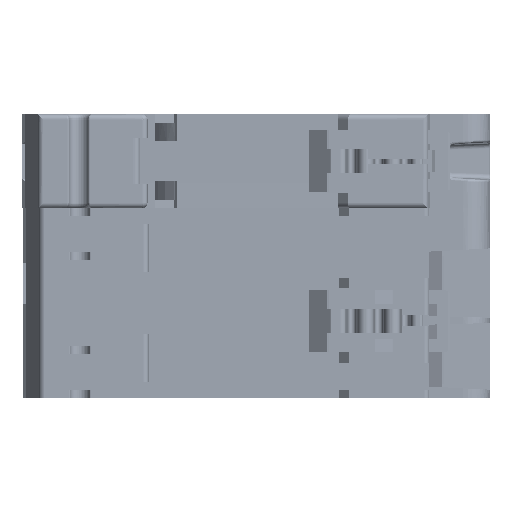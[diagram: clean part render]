
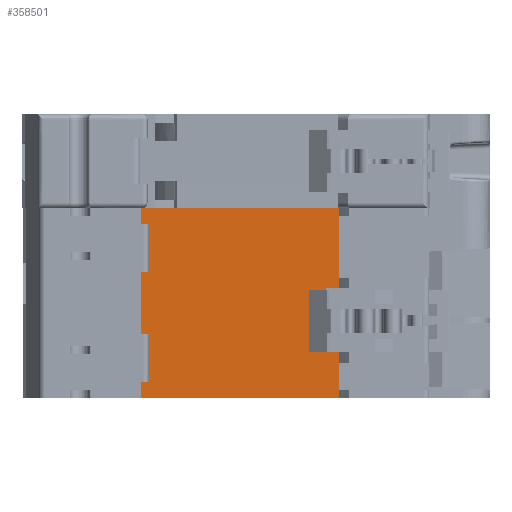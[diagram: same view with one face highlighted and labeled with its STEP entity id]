
A CAD part, front view. The second image highlights one B-rep face of the part: STEP entity #358501.
In plain terms, the highlighted planar face has unit normal (0, -1, 0).
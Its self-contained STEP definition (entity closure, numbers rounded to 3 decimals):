
#3156 = ORIENTED_EDGE ( 'NONE', *, *, #498165, .F. ) ;
#15279 = CARTESIAN_POINT ( 'NONE',  ( 13.746, -23.911, 35.89 ) ) ;
#27197 = VERTEX_POINT ( 'NONE', #525369 ) ;
#33864 = LINE ( 'NONE', #15279, #253383 ) ;
#36318 = CARTESIAN_POINT ( 'NONE',  ( -20.882, -23.911, 71.39 ) ) ;
#50245 = EDGE_CURVE ( 'NONE', #143438, #93414, #187559, .T. ) ;
#55193 = DIRECTION ( 'NONE',  ( 0., 0., -1. ) ) ;
#57541 = EDGE_CURVE ( 'NONE', #504434, #122988, #69571, .T. ) ;
#60267 = ORIENTED_EDGE ( 'NONE', *, *, #50245, .T. ) ;
#61376 = VECTOR ( 'NONE', #178890, 1000. ) ;
#69571 = LINE ( 'NONE', #389538, #385760 ) ;
#90822 = CARTESIAN_POINT ( 'NONE',  ( 16.118, -23.911, 35.89 ) ) ;
#93414 = VERTEX_POINT ( 'NONE', #284369 ) ;
#99557 = DIRECTION ( 'NONE',  ( 0., 0., 1. ) ) ;
#106490 = LINE ( 'NONE', #144571, #325802 ) ;
#106575 = CARTESIAN_POINT ( 'NONE',  ( 16.118, -23.911, 56.39 ) ) ;
#111138 = PLANE ( 'NONE',  #265734 ) ;
#112945 = DIRECTION ( 'NONE',  ( 0., 1., 0. ) ) ;
#122988 = VERTEX_POINT ( 'NONE', #343846 ) ;
#137278 = CARTESIAN_POINT ( 'NONE',  ( 16.118, -23.911, 35.89 ) ) ;
#143438 = VERTEX_POINT ( 'NONE', #90822 ) ;
#144571 = CARTESIAN_POINT ( 'NONE',  ( 16.118, -23.911, 71.39 ) ) ;
#151391 = EDGE_LOOP ( 'NONE', ( #293049, #414551, #422875, #60267, #265553, #3156, #296457, #457056 ) ) ;
#159981 = CARTESIAN_POINT ( 'NONE',  ( 16.118, -23.911, 35.89 ) ) ;
#171203 = LINE ( 'NONE', #137278, #61376 ) ;
#178890 = DIRECTION ( 'NONE',  ( -1., 0., 0. ) ) ;
#187559 = LINE ( 'NONE', #191618, #393955 ) ;
#187872 = DIRECTION ( 'NONE',  ( -1., 0., 0. ) ) ;
#191618 = CARTESIAN_POINT ( 'NONE',  ( 16.118, -23.911, 35.89 ) ) ;
#201528 = DIRECTION ( 'NONE',  ( 0., 0., 1. ) ) ;
#221361 = LINE ( 'NONE', #487895, #524388 ) ;
#222159 = EDGE_CURVE ( 'NONE', #143438, #432058, #171203, .T. ) ;
#228727 = FACE_OUTER_BOUND ( 'NONE', #151391, .T. ) ;
#244625 = EDGE_CURVE ( 'NONE', #495017, #343249, #106490, .T. ) ;
#253383 = VECTOR ( 'NONE', #55193, 1000. ) ;
#265553 = ORIENTED_EDGE ( 'NONE', *, *, #364997, .F. ) ;
#265734 = AXIS2_PLACEMENT_3D ( 'NONE', #359982, #112945, #401332 ) ;
#284369 = CARTESIAN_POINT ( 'NONE',  ( 16.118, -23.911, 44.39 ) ) ;
#290183 = DIRECTION ( 'NONE',  ( 0., 0., 1. ) ) ;
#293049 = ORIENTED_EDGE ( 'NONE', *, *, #244625, .T. ) ;
#296457 = ORIENTED_EDGE ( 'NONE', *, *, #57541, .F. ) ;
#311026 = VECTOR ( 'NONE', #290183, 1000. ) ;
#325802 = VECTOR ( 'NONE', #187872, 1000. ) ;
#331700 = CARTESIAN_POINT ( 'NONE',  ( -20.882, -23.911, 35.89 ) ) ;
#343249 = VERTEX_POINT ( 'NONE', #36318 ) ;
#343846 = CARTESIAN_POINT ( 'NONE',  ( 13.746, -23.911, 56.39 ) ) ;
#346895 = EDGE_CURVE ( 'NONE', #432058, #343249, #420631, .T. ) ;
#358501 = ADVANCED_FACE ( 'NONE', ( #228727 ), #111138, .F. ) ;
#359982 = CARTESIAN_POINT ( 'NONE',  ( 16.118, -23.911, 35.89 ) ) ;
#364997 = EDGE_CURVE ( 'NONE', #27197, #93414, #221361, .T. ) ;
#370160 = CARTESIAN_POINT ( 'NONE',  ( 16.118, -23.911, 71.39 ) ) ;
#371605 = CARTESIAN_POINT ( 'NONE',  ( -20.882, -23.911, 35.89 ) ) ;
#385760 = VECTOR ( 'NONE', #431025, 1000. ) ;
#389538 = CARTESIAN_POINT ( 'NONE',  ( 16.118, -23.911, 56.39 ) ) ;
#390678 = EDGE_CURVE ( 'NONE', #504434, #495017, #511049, .T. ) ;
#393955 = VECTOR ( 'NONE', #99557, 1000. ) ;
#401313 = VECTOR ( 'NONE', #201528, 1000. ) ;
#401332 = DIRECTION ( 'NONE',  ( 1., 0., 0. ) ) ;
#414551 = ORIENTED_EDGE ( 'NONE', *, *, #346895, .F. ) ;
#420631 = LINE ( 'NONE', #331700, #311026 ) ;
#422875 = ORIENTED_EDGE ( 'NONE', *, *, #222159, .F. ) ;
#431025 = DIRECTION ( 'NONE',  ( -1., 0., 0. ) ) ;
#432058 = VERTEX_POINT ( 'NONE', #371605 ) ;
#457056 = ORIENTED_EDGE ( 'NONE', *, *, #390678, .T. ) ;
#487895 = CARTESIAN_POINT ( 'NONE',  ( 16.118, -23.911, 44.39 ) ) ;
#495017 = VERTEX_POINT ( 'NONE', #370160 ) ;
#498165 = EDGE_CURVE ( 'NONE', #122988, #27197, #33864, .T. ) ;
#504434 = VERTEX_POINT ( 'NONE', #106575 ) ;
#511049 = LINE ( 'NONE', #159981, #401313 ) ;
#524388 = VECTOR ( 'NONE', #529291, 1000. ) ;
#525369 = CARTESIAN_POINT ( 'NONE',  ( 13.746, -23.911, 44.39 ) ) ;
#529291 = DIRECTION ( 'NONE',  ( 1., 0., 0. ) ) ;
